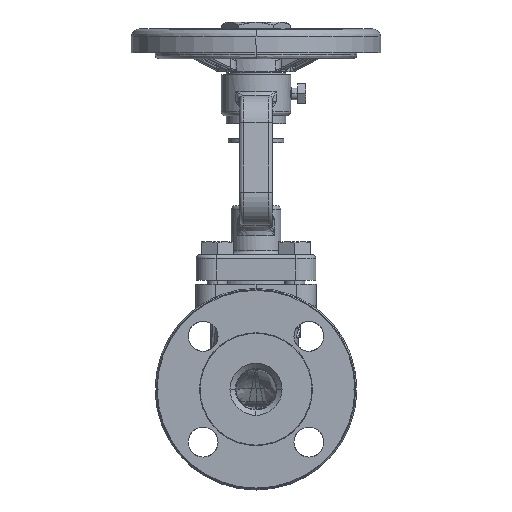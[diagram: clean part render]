
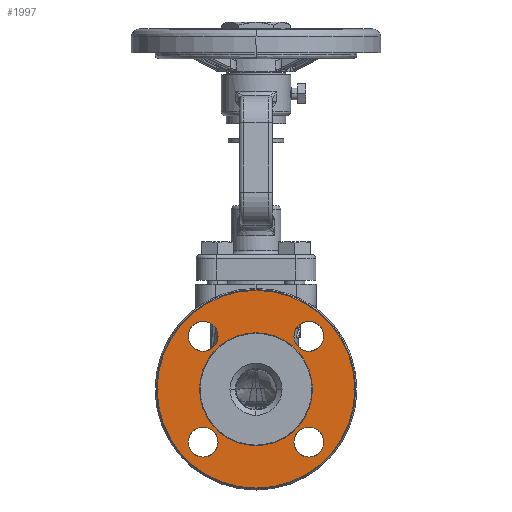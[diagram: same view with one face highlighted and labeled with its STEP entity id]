
A CAD part, left-side view. The second image highlights one B-rep face of the part: STEP entity #1997.
In plain terms, the highlighted planar face has unit normal (-1, 0, 0).
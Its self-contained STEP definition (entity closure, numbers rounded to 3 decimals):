
#1997=ADVANCED_FACE('',(#17463,#17464,#17465,#17466,#17467,#17468),#17462,.F.);
#17462=PLANE('',#44976);
#17463=FACE_OUTER_BOUND('',#44977,.T.);
#17464=FACE_BOUND('',#44978,.T.);
#17465=FACE_BOUND('',#44979,.T.);
#17466=FACE_BOUND('',#44980,.T.);
#17467=FACE_BOUND('',#44981,.T.);
#17468=FACE_BOUND('',#44982,.T.);
#44973=CARTESIAN_POINT('',(-59.,-59.441,59.44));
#44974=DIRECTION('',(1.,0.,0.));
#44975=DIRECTION('',(0.,0.,-1.));
#44976=AXIS2_PLACEMENT_3D('',#44973,#44974,#44975);
#44977=EDGE_LOOP('',(#57547,#57548,#57549,#57550,#57551,#57552));
#44978=EDGE_LOOP('',(#57553,#57554));
#44979=EDGE_LOOP('',(#57555,#57556));
#44980=EDGE_LOOP('',(#57557,#57558));
#44981=EDGE_LOOP('',(#57559,#57560));
#44982=EDGE_LOOP('',(#57561,#57562));
#57547=ORIENTED_EDGE('',*,*,#61454,.T.);
#57548=ORIENTED_EDGE('',*,*,#61698,.F.);
#57549=ORIENTED_EDGE('',*,*,#61693,.F.);
#57550=ORIENTED_EDGE('',*,*,#61071,.T.);
#57551=ORIENTED_EDGE('',*,*,#62599,.F.);
#57552=ORIENTED_EDGE('',*,*,#62600,.F.);
#57553=ORIENTED_EDGE('',*,*,#62601,.T.);
#57554=ORIENTED_EDGE('',*,*,#62602,.T.);
#57555=ORIENTED_EDGE('',*,*,#62603,.T.);
#57556=ORIENTED_EDGE('',*,*,#62604,.T.);
#57557=ORIENTED_EDGE('',*,*,#62605,.T.);
#57558=ORIENTED_EDGE('',*,*,#62606,.T.);
#57559=ORIENTED_EDGE('',*,*,#62607,.T.);
#57560=ORIENTED_EDGE('',*,*,#62608,.T.);
#57561=ORIENTED_EDGE('',*,*,#62609,.F.);
#57562=ORIENTED_EDGE('',*,*,#62610,.F.);
#61071=EDGE_CURVE('',#78501,#78502,#78503,.T.);
#61454=EDGE_CURVE('',#81116,#81117,#81118,.T.);
#61693=EDGE_CURVE('',#78501,#82760,#82761,.T.);
#61698=EDGE_CURVE('',#82760,#81117,#82794,.T.);
#62599=EDGE_CURVE('',#88623,#78502,#88624,.T.);
#62600=EDGE_CURVE('',#81116,#88623,#88630,.T.);
#62601=EDGE_CURVE('',#88636,#88637,#88638,.T.);
#62602=EDGE_CURVE('',#88637,#88636,#88644,.T.);
#62603=EDGE_CURVE('',#88650,#88651,#88652,.T.);
#62604=EDGE_CURVE('',#88651,#88650,#88658,.T.);
#62605=EDGE_CURVE('',#88664,#88665,#88666,.T.);
#62606=EDGE_CURVE('',#88665,#88664,#88672,.T.);
#62607=EDGE_CURVE('',#88678,#88679,#88680,.T.);
#62608=EDGE_CURVE('',#88679,#88678,#88686,.T.);
#62609=EDGE_CURVE('',#88692,#88693,#88694,.T.);
#62610=EDGE_CURVE('',#88693,#88692,#88700,.T.);
#78501=VERTEX_POINT('',#103865);
#78502=VERTEX_POINT('',#103866);
#78503=CIRCLE('',#103870,49.534);
#81116=VERTEX_POINT('',#106320);
#81117=VERTEX_POINT('',#106321);
#81118=CIRCLE('',#106325,49.534);
#82760=VERTEX_POINT('',#107699);
#82761=LINE('',#107700,#107701);
#82794=LINE('',#107740,#107741);
#88623=VERTEX_POINT('',#113989);
#88624=LINE('',#113990,#113991);
#88630=LINE('',#113993,#113994);
#88636=VERTEX_POINT('',#113996);
#88637=VERTEX_POINT('',#113997);
#88638=CIRCLE('',#114001,7.5);
#88644=CIRCLE('',#114005,7.5);
#88650=VERTEX_POINT('',#114006);
#88651=VERTEX_POINT('',#114007);
#88652=CIRCLE('',#114011,7.5);
#88658=CIRCLE('',#114015,7.5);
#88664=VERTEX_POINT('',#114016);
#88665=VERTEX_POINT('',#114017);
#88666=CIRCLE('',#114021,7.5);
#88672=CIRCLE('',#114025,7.5);
#88678=VERTEX_POINT('',#114026);
#88679=VERTEX_POINT('',#114027);
#88680=CIRCLE('',#114031,7.5);
#88686=CIRCLE('',#114035,7.5);
#88692=VERTEX_POINT('',#114036);
#88693=VERTEX_POINT('',#114037);
#88694=CIRCLE('',#114041,28.268);
#88700=CIRCLE('',#114045,28.268);
#103865=CARTESIAN_POINT('',(-59.,0.308,49.533));
#103866=CARTESIAN_POINT('',(-59.,0.308,-49.533));
#103867=CARTESIAN_POINT('',(-59.,0.,0.));
#103868=DIRECTION('',(-1.,0.,0.));
#103869=DIRECTION('',(0.,0.,1.));
#103870=AXIS2_PLACEMENT_3D('',#103867,#103868,#103869);
#106320=CARTESIAN_POINT('',(-59.,-0.308,-49.533));
#106321=CARTESIAN_POINT('',(-59.,-0.308,49.533));
#106322=CARTESIAN_POINT('',(-59.,0.,0.));
#106323=DIRECTION('',(-1.,0.,0.));
#106324=DIRECTION('',(0.,0.,1.));
#106325=AXIS2_PLACEMENT_3D('',#106322,#106323,#106324);
#107699=CARTESIAN_POINT('',(-59.,0.,49.));
#107700=CARTESIAN_POINT('',(-59.,0.308,49.533));
#107701=VECTOR('',#107702,0.616);
#107702=DIRECTION('',(0.,-0.5,-0.866));
#107740=CARTESIAN_POINT('',(-59.,0.,49.));
#107741=VECTOR('',#107742,0.616);
#107742=DIRECTION('',(0.,-0.5,0.866));
#113989=CARTESIAN_POINT('',(-59.,0.,-49.));
#113990=CARTESIAN_POINT('',(-59.,0.,-49.));
#113991=VECTOR('',#113992,0.616);
#113992=DIRECTION('',(0.,0.5,-0.866));
#113993=CARTESIAN_POINT('',(-59.,-0.308,-49.533));
#113994=VECTOR('',#113995,0.616);
#113995=DIRECTION('',(0.,0.5,0.866));
#113996=CARTESIAN_POINT('',(-59.,26.517,-34.017));
#113997=CARTESIAN_POINT('',(-59.,26.517,-19.017));
#113998=CARTESIAN_POINT('',(-59.,26.517,-26.517));
#113999=DIRECTION('',(1.,0.,0.));
#114000=DIRECTION('',(0.,0.,-1.));
#114001=AXIS2_PLACEMENT_3D('',#113998,#113999,#114000);
#114002=CARTESIAN_POINT('',(-59.,26.517,-26.517));
#114003=DIRECTION('',(1.,0.,0.));
#114004=DIRECTION('',(0.,0.,-1.));
#114005=AXIS2_PLACEMENT_3D('',#114002,#114003,#114004);
#114006=CARTESIAN_POINT('',(-59.,-26.517,19.017));
#114007=CARTESIAN_POINT('',(-59.,-26.517,34.017));
#114008=CARTESIAN_POINT('',(-59.,-26.517,26.517));
#114009=DIRECTION('',(1.,0.,0.));
#114010=DIRECTION('',(0.,0.,-1.));
#114011=AXIS2_PLACEMENT_3D('',#114008,#114009,#114010);
#114012=CARTESIAN_POINT('',(-59.,-26.517,26.517));
#114013=DIRECTION('',(1.,0.,0.));
#114014=DIRECTION('',(0.,0.,-1.));
#114015=AXIS2_PLACEMENT_3D('',#114012,#114013,#114014);
#114016=CARTESIAN_POINT('',(-59.,-26.517,-34.017));
#114017=CARTESIAN_POINT('',(-59.,-26.517,-19.017));
#114018=CARTESIAN_POINT('',(-59.,-26.517,-26.517));
#114019=DIRECTION('',(1.,0.,0.));
#114020=DIRECTION('',(0.,0.,-1.));
#114021=AXIS2_PLACEMENT_3D('',#114018,#114019,#114020);
#114022=CARTESIAN_POINT('',(-59.,-26.517,-26.517));
#114023=DIRECTION('',(1.,0.,0.));
#114024=DIRECTION('',(0.,0.,-1.));
#114025=AXIS2_PLACEMENT_3D('',#114022,#114023,#114024);
#114026=CARTESIAN_POINT('',(-59.,26.517,19.017));
#114027=CARTESIAN_POINT('',(-59.,26.517,34.017));
#114028=CARTESIAN_POINT('',(-59.,26.517,26.517));
#114029=DIRECTION('',(1.,0.,0.));
#114030=DIRECTION('',(0.,0.,-1.));
#114031=AXIS2_PLACEMENT_3D('',#114028,#114029,#114030);
#114032=CARTESIAN_POINT('',(-59.,26.517,26.517));
#114033=DIRECTION('',(1.,0.,0.));
#114034=DIRECTION('',(0.,0.,-1.));
#114035=AXIS2_PLACEMENT_3D('',#114032,#114033,#114034);
#114036=CARTESIAN_POINT('',(-59.,0.,-28.268));
#114037=CARTESIAN_POINT('',(-59.,0.,28.268));
#114038=CARTESIAN_POINT('',(-59.,0.,0.));
#114039=DIRECTION('',(-1.,0.,0.));
#114040=DIRECTION('',(0.,0.,1.));
#114041=AXIS2_PLACEMENT_3D('',#114038,#114039,#114040);
#114042=CARTESIAN_POINT('',(-59.,0.,0.));
#114043=DIRECTION('',(-1.,0.,0.));
#114044=DIRECTION('',(0.,0.,1.));
#114045=AXIS2_PLACEMENT_3D('',#114042,#114043,#114044);
